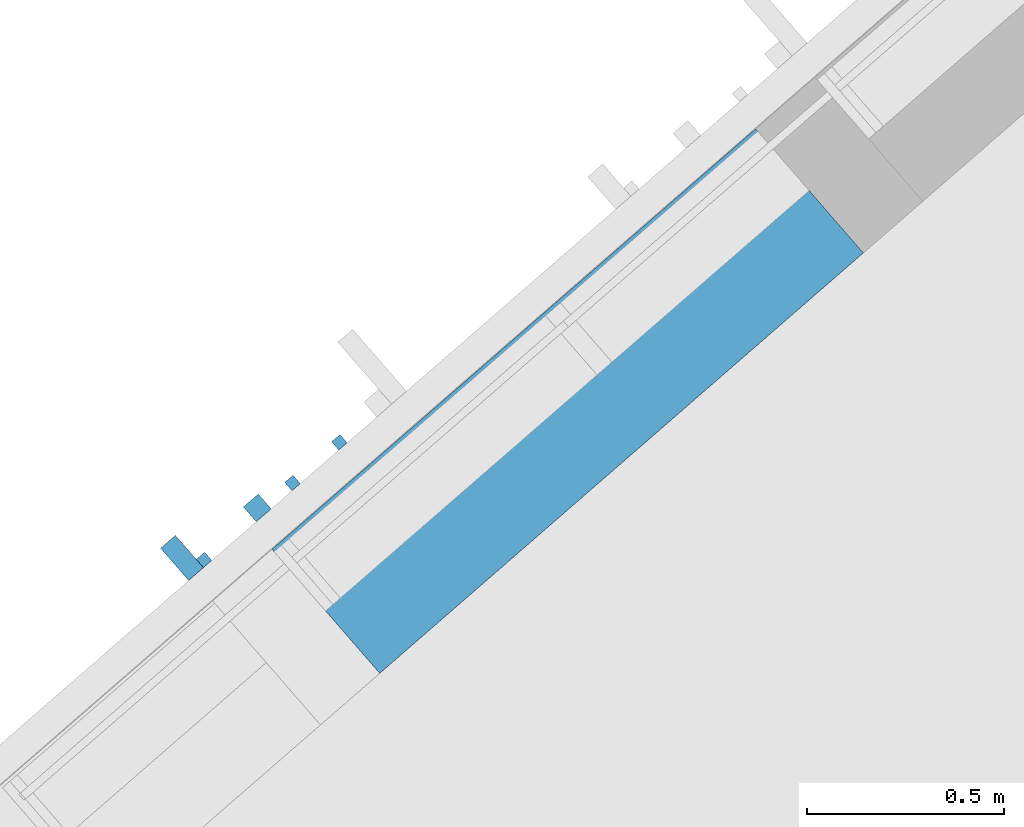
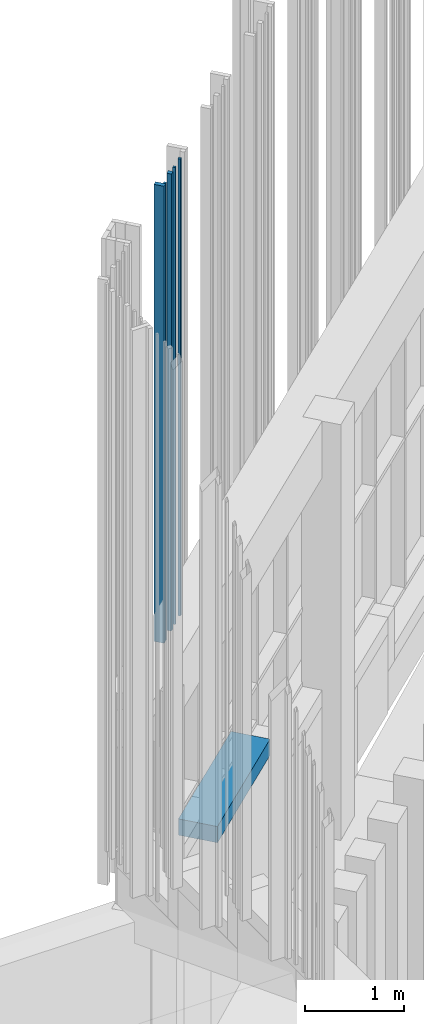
# One storey, part 133 of 390: 6 walls.
"""IFC2X3 building model written with IfcOpenShell, lengths in millimetres."""

from ifc_helpers import new_model, entity, si_unit, converted_unit, derived_unit, money_unit, direction, frame, origin_with_axes, place, context, subcontext, project, spatial, faceted_brep, material, material_list, type_object, element, save


model = new_model("IFC2X3")

# Units and contexts
model_context = context("Model", 3, precision=1e-05, world=origin_with_axes(), true_north=direction((0.0, 1.0)))
body_context = subcontext(model_context, "Body", "Model", "MODEL_VIEW")
ifc_project = project(units=[si_unit("LENGTHUNIT", "METRE", prefix="MILLI"), si_unit("AREAUNIT", "SQUARE_METRE"), si_unit("VOLUMEUNIT", "CUBIC_METRE"), converted_unit("PLANEANGLEUNIT", "DEGREE", entity("IfcPlaneAngleMeasure", 0.0174532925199), si_unit("PLANEANGLEUNIT", "RADIAN"), dimensions=[0, 0, 0, 0, 0, 0, 0]), si_unit("SOLIDANGLEUNIT", "STERADIAN"), money_unit("EUR"), converted_unit("TIMEUNIT", "Year", entity("IfcTimeMeasure", 31556926.0), si_unit("TIMEUNIT", "SECOND"), dimensions=[0, 0, 1, 0, 0, 0, 0]), si_unit("MASSUNIT", "GRAM", prefix="KILO"), si_unit("THERMODYNAMICTEMPERATUREUNIT", "DEGREE_CELSIUS"), si_unit("LUMINOUSINTENSITYUNIT", "LUMEN"), si_unit("ENERGYUNIT", "JOULE", prefix="MEGA"), derived_unit("THERMALCONDUCTANCEUNIT", [(si_unit("POWERUNIT", "WATT"), 1), (si_unit("LENGTHUNIT", "METRE"), -1), (si_unit("THERMODYNAMICTEMPERATUREUNIT", "KELVIN"), -1)]), derived_unit("SPECIFICHEATCAPACITYUNIT", [(si_unit("ENERGYUNIT", "JOULE"), 1), (si_unit("MASSUNIT", "GRAM", prefix="KILO"), -1), (si_unit("THERMODYNAMICTEMPERATUREUNIT", "KELVIN"), -1)]), derived_unit("MASSDENSITYUNIT", [(si_unit("MASSUNIT", "GRAM", prefix="KILO"), 1), (si_unit("VOLUMEUNIT", "CUBIC_METRE"), -1)])], contexts=[model_context])

# Site, building, storey
site_placement = place(None, origin_with_axes())
site = spatial("IfcSite", under=ifc_project, at=site_placement, Name="Site", CompositionType="ELEMENT")
building_placement = place(site_placement, origin_with_axes())
building = spatial("IfcBuilding", under=site, at=building_placement, Name="Building", CompositionType="ELEMENT")
storey_placement = place(building_placement, origin_with_axes())
storey = spatial("IfcBuildingStorey", under=building, at=storey_placement, Name="1 korrus", CompositionType="ELEMENT", Elevation=0.0)

# Walls
ifc_material_1 = material(Name="Site specified")
wall_type_1 = type_object("IfcWallType", Name="Puitfassaadi ribistik", PredefinedType="NOTDEFINED")
wall_1_placement = place(storey_placement, frame((124135.899451, 77931.531722, 4235.01600461), z_axis=(0.0, 0.0, 1.0), x_axis=(0.754709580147, 0.656059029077, 0.0)))
element("IfcWall", 1, at=wall_1_placement, inside=storey, type_object=wall_type_1, material=ifc_material_1, Name="Site specified", context=body_context, shape_type="Brep", body=[
    faceted_brep([(14.0, 14.0, 5629.98399539), (14.0, 14.0, 0.0), (-14.0, 14.0, 0.0), (-14.0, 14.0, 5629.98399539), (14.0, -14.0, 5629.98399539), (14.0, -14.0, 0.0), (-14.0, -14.0, 0.0), (-14.0, -14.0, 5629.98399539)], [[[0, 1, 2, 3]], [[4, 5, 1, 0]], [[2, 1, 5, 6]], [[3, 2, 6, 7]], [[4, 0, 3, 7]], [[7, 6, 5, 4]]]),
])
wall_2_placement = place(storey_placement, frame((123927.175344, 77764.6657666, 4235.01600461), z_axis=(0.0, 0.0, 1.0), x_axis=(0.754709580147, 0.656059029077, 0.0)))
element("IfcWall", 2, at=wall_2_placement, inside=storey, type_object=wall_type_1, material=ifc_material_1, Name="Site specified", context=body_context, shape_type="Brep", body=[
    faceted_brep([(25.0, 25.0, 5629.98399539), (25.0, 25.0, 0.0), (-25.0, 25.0, 0.0), (-25.0, 25.0, 5629.98399539), (25.0, -25.0, 5629.98399539), (25.0, -25.0, 0.0), (-25.0, -25.0, 0.0), (-25.0, -25.0, 5629.98399539)], [[[0, 1, 2, 3]], [[4, 5, 1, 0]], [[2, 1, 5, 6]], [[3, 2, 6, 7]], [[4, 0, 3, 7]], [[7, 6, 5, 4]]]),
])
for number, where, z_axis, x_axis, name in (
    (3, (124016.655337, 77827.8743954, 4235.01600461), (0.0, 0.0, 1.0), (0.754709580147, 0.656059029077, 0.0), "Site specified"),
    (4, (123791.751881, 77632.3688059, 4235.01600461), (0.0, 0.0, 1.0), (0.754709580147, 0.656059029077, 0.0), "Site specified"),
):
    element("IfcWall", number, at=place(storey_placement, frame(where, z_axis=z_axis, x_axis=x_axis)), inside=storey, type_object=wall_type_1, material=ifc_material_1, Name=name, context=body_context, shape_type="Brep", body=[
        faceted_brep([(14.0, 14.0, 5629.98399539), (14.0, 14.0, 0.0), (-14.0, 14.0, 0.0), (-14.0, 14.0, 5629.98399539), (14.0, -14.0, 5629.98399539), (14.0, -14.0, 0.0), (-14.0, -14.0, 0.0), (-14.0, -14.0, 5629.98399539)], [[[0, 1, 2, 3]], [[4, 5, 1, 0]], [[2, 1, 5, 6]], [[3, 2, 6, 7]], [[4, 0, 3, 7]], [[7, 6, 5, 4]]]),
    ])
wall_3_placement = place(storey_placement, frame((123735.747817, 77637.3482418, 4235.01600461), z_axis=(0.0, 0.0, 1.0), x_axis=(0.754709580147, 0.656059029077, 0.0)))
element("IfcWall", 5, at=wall_3_placement, inside=storey, type_object=wall_type_1, material=ifc_material_1, Name="Site specified", context=body_context, shape_type="Brep", body=[
    faceted_brep([(25.0, 54.5, 5629.98399539), (25.0, 54.5, 0.0), (-25.0, 54.5, 0.0), (-25.0, 54.5, 5629.98399539), (25.0, -54.5, 5629.98399539), (25.0, -54.5, 0.0), (-25.0, -54.5, 0.0), (-25.0, -54.5, 5629.98399539)], [[[0, 1, 2, 3]], [[4, 5, 1, 0]], [[2, 1, 5, 6]], [[3, 2, 6, 7]], [[4, 0, 3, 7]], [[7, 6, 5, 4]]]),
])
ifc_material_2 = material(Name="Plaat - Sein")
ifc_material_3 = material(Name="Soojustus - Plastik Kõva")
ifc_material_4 = material(Name="Raudbetoon - Konstruktsioon")
ifc_material_5 = material(Name="Krohv - Lubjakivi")
ifc_material_list = material_list([ifc_material_2, ifc_material_3, ifc_material_3, ifc_material_4, ifc_material_5])
wall_type_2 = type_object("IfcWallType", Name="VS-05", PredefinedType="NOTDEFINED")
wall_4_placement = place(storey_placement, frame((124238.695056, 77343.8089419, 1750.0), z_axis=(0.0, 0.0, 1.0), x_axis=(0.754709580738, 0.656059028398, 0.0)))
element("IfcWall", 6, at=wall_4_placement, inside=storey, type_object=wall_type_2, material=ifc_material_list, Name="VS-05", context=body_context, shape_type="Brep", body=[
    faceted_brep([(1630.0, 418.0, 0.0), (1630.0, 410.0, 0.0), (0.0, 410.0, 0.0), (0.0, 418.0, 0.0), (1630.0, 418.0, 200.0), (1630.0, 410.0, 200.0), (0.0, 410.0, 200.0), (0.0, 418.0, 200.0)], [[[0, 1, 2, 3]], [[0, 4, 5, 1]], [[1, 5, 6, 2]], [[3, 2, 6, 7]], [[4, 0, 3, 7]], [[5, 4, 7, 6]]]),
    faceted_brep([(1630.0, 410.0, 0.0), (1630.0, 360.0, 0.0), (0.0, 360.0, 0.0), (0.0, 410.0, 0.0), (1630.0, 410.0, 200.0), (1630.0, 360.0, 200.0), (0.0, 360.0, 200.0), (0.0, 410.0, 200.0)], [[[0, 1, 2, 3]], [[0, 4, 5, 1]], [[1, 5, 6, 2]], [[3, 2, 6, 7]], [[4, 0, 3, 7]], [[5, 4, 7, 6]]]),
    faceted_brep([(1630.0, 360.0, 0.0), (1630.0, 210.0, 0.0), (0.0, 210.0, 0.0), (0.0, 360.0, 0.0), (1630.0, 360.0, 200.0), (1630.0, 210.0, 200.0), (0.0, 210.0, 200.0), (0.0, 360.0, 200.0)], [[[0, 1, 2, 3]], [[0, 4, 5, 1]], [[1, 5, 6, 2]], [[3, 2, 6, 7]], [[4, 0, 3, 7]], [[5, 4, 7, 6]]]),
    faceted_brep([(1630.0, 210.0, 0.0), (1630.0, 9.99999999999, 0.0), (0.0, 10.0, 0.0), (0.0, 210.0, 0.0), (1630.0, 210.0, 200.0), (1630.0, 9.99999999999, 200.0), (0.0, 10.0, 200.0), (0.0, 210.0, 200.0)], [[[0, 1, 2, 3]], [[0, 4, 5, 1]], [[1, 5, 6, 2]], [[3, 2, 6, 7]], [[4, 0, 3, 7]], [[5, 4, 7, 6]]]),
    faceted_brep([(1630.0, 9.99999999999, 0.0), (1630.0, 0.0, 0.0), (0.0, 0.0, 0.0), (0.0, 10.0, 0.0), (1630.0, 9.99999999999, 200.0), (1630.0, 0.0, 200.0), (0.0, 0.0, 200.0), (0.0, 10.0, 200.0)], [[[0, 1, 2, 3]], [[0, 4, 5, 1]], [[1, 5, 6, 2]], [[3, 2, 6, 7]], [[4, 0, 3, 7]], [[5, 4, 7, 6]]]),
])

save(model, "model.ifc")
